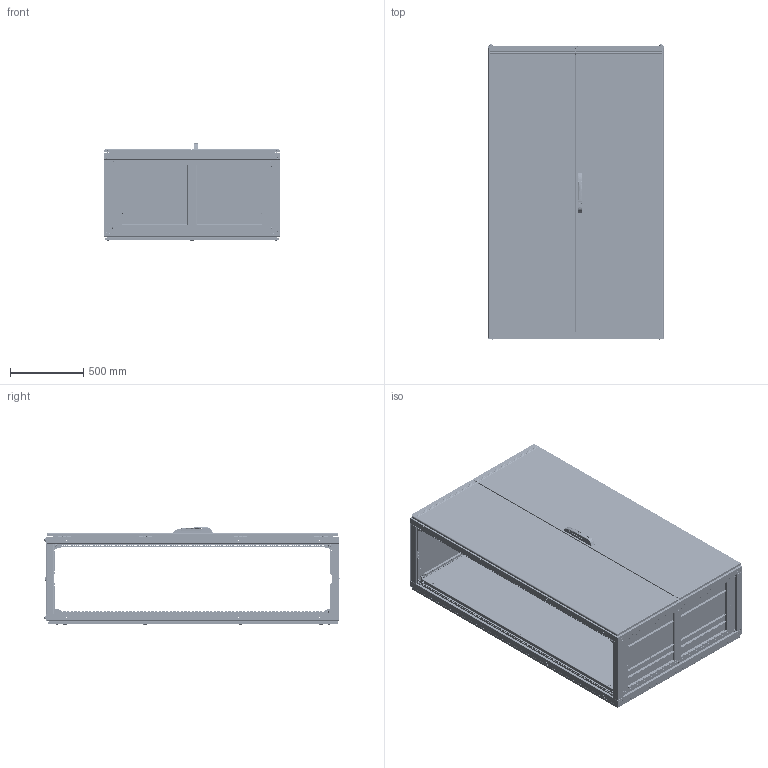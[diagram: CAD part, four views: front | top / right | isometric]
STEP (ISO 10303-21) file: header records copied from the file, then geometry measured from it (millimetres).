
FILE_DESCRIPTION (( 'STEP AP214' ), '1' );
FILE_NAME ('N201206D- 2000 H X 1200 W X 600 D - NEO MODULAR.STEP', '2026-10-01T08:35:08', ( '' ), ( '' ), 'SwSTEP 2.0', 'SolidWorks 2025', '' );
FILE_SCHEMA (( 'AUTOMOTIVE_DESIGN' ));
Length unit declared in the file: millimetre
Products named in the file (107): Base sheet slide part_PP 12.0033 - 1200; adaptor for zamak panel; M8 KAFES SOMUN_m8; F║ºE G=VDE_; lande plastic panel_1_1; Rod Models_1800 çift kapı; YP1189-1-M6_kapal-_1me; Front Slat_1200 sol; MP 11.0195 Mounting Plate M8 Wedge; HO 2000 019CK_1__1_1; 4,6 Diameter plug; hex flange nut gradea_iso6_Hexagon Flange Nut DIN 6923 - M6 - N; Carriage  Nut  VER3 NEO26-12_25x25; Rear Panel Sheet - Neo_PP 16.0051 1200x2000; CR-PHMS 0.19-32x0.625x0.625-N_CR-PHMS 0.19-32x0.625x0.625-N; epdm gasketVER3 NEO26-12; ARKA KAPAK BRAKETVER3 NEO26-12; 2 Door Middle Connection Part - Plastic; YZE069T__1_1; YM 1473; F║ºE KAPAK_; square washer NEO26-12; Teos-Neo MP Durdurucu; BOYUNA DELIKLI PROFILVER3 NEO26-12me_2000; Hexagon Nut ISO - 4034 - M6 - N_Hexagon Nut ISO - 4034 - M6 - N; M5x10mm YHB Bolt_PreviewCfg_1__1_1; NEO Mounting plate sled_PP 16.1238-600; MSBR-7_1__1_1; Front Slat_1200 sağ; Lock mounting part; NEO Modular Rear Panel_1200x2000; countersunk flat head cross recess screw_iso7_ISO 7046-1 - M5 x 10 - Z --- 10C; F║ºE KAPAMA_; Top WidthVER3 NEO26-19_PP 16.0010 1200 GEN.ÜST; TEOS-NEO MP Right Bracket with pin_Sıfır Pozisyonu; 2751_1_1_schrack; square washer nut VER3 NEO26-12; YZE068T__1_1; Mirror MP 11.0188 Support Part ans Locking; Top Cover Sheet_PP 16.0073 1200X600 UST KAPAK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
Assembly tree (314 placements, depth 5):
  N201206D- 2000 H X 1200 W X 600 D - NEO MODULAR
    NEO Modular Frame Assembly_1200x2000x600
      Frame 2015VER3 NEO26-12_1200x2000  x2
        Vertical Profile NEO26-12_PP 16.0014 H 2000
        Top WidthVER3 NEO26-19_PP 16.0010 1200 GEN.ÜST
        Top WidthVER3 NEO26-19_PP 16.0009 1200 GEN.ALT
        Carriage  Nut  VER3 NEO26-12_25x25
        hex nut heavy_am_B18.2.4.6M - Heavy hex nut,  M12 x 1.75 --W-N
        MP 0701.0050 M8 Rivetnut
      NEO Modular Depth_600  x4
        Depth Part VER3 NEO26-12_PP 16.0017   600
        Depth Inner Corner VER3 NEO26-12_PP 16.0023 600 D İÇ
        epdm gasketVER3 NEO26-12
        square washer nut VER3 NEO26-12
        square washer NEO26-12
        socket head cap screw_am_B18.3.1M - 8 x 1.25 x 20 Hex SHCS -- 20NHX
        curved spring lock washer_din_Spring washer DIN 128 - A8
        4X8 Rivet
        4X8 Rivet_4X8
      TEOS-NEO Base sheet metal parts_1200x600  x2
        03-Base Sheet U1 04-2012VER3 NEO26-12_PP 12.0043 - 1200-75
        Base sheet slide part_PP 12.0033 - 1200
        03-Base Sheet U1 04-2012VER3 NEO26-12_PP 12.0038 - 1200-200
      NEO Base Width Part_PP 16.0102 1200 GENİŞLİK  x2
      pan head cross recess screw_iso121_ISO 7045 - M3 x 20 - Z --- 20N  x20
      NEO Base depth Part_PP 16.0096 600  x2
      03taban derinlik orta  percinli 04-2012_PP 12.0055 -600
      NEO Mounting plate sled_PP 16.1238-600  x2
      4,6 Diameter plug  x2
    NEO Modular Rear Panel_1200x2000
      Rear Panel Sheet - Neo_PP 16.0051 1200x2000
      arka kapak orta çektirme NEO A2-REVİZE 1  x2
      pan head cross recess screw_iso121_ISO 7045 - M3 x 20 - Z --- 20N  x20
      MP 14.0007 M6 Plastic Countersink  x10
      countersunk flat head cross recess screw_iso_ISO 7046-1 - M6 x 25 - Z --- 25C  x10
      M6 KAFES SOMUN  x2
        M6 Somun Kafesi
        M6 Kare Somun
      ARKA KAPAK BRAKETVER3 NEO26-12  x8
    NEO Modular Top Cover_1200x600
      Top Cover Sheet_PP 16.0073 1200X600 UST KAPAK
      countersunk flat head cross recess screw_iso_ISO 7046-1 - M6 x 25 - Z --- 25C  x2
      MP 14.0007 M6 Plastic Countersink  x2
      plain washer normal grade a_iso_Washer ISO 7089 - 12  x4
      socket button head screw_iso_ISO 7380 - M12 x 30 - 30C  x4
      Top Cover  3mm Stopper  x4
    NEO Right Front Door_1200x2000
      Right Door Sheet 2 mm_PP 16.0092 1200X2000 SAĞ
      Front Slat_1200 sağ
      Profile Frame with hole Neo_1200x2000
        ENINE DELIKLI PROFILVER3 NEO26-12me_1200  x2
        BOYUNA DELIKLI PROFILVER3 NEO26-12me_2000  x2
        22032010-PLASTIK KOSE50x40VER3 NEO26-12me  x4
      Lock Hinge_1800-Cift
        2751_1_1_schrack
          MSBR-7_1__1_1
          YZE124TKK_1__1_1
          F║ºE G=VDE_
          F║ºE KAPAMA_
          F║ºE KAPAK_
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Bounding box: 1200.1 x 2014.6 x 664.99 mm (x, y, z)
Volume: 22908987.8 mm3; surface area: 26999464.1 mm2
Topology: 413 solids, 413 shells, 33723 faces, 90547 edges, 57344 vertices
Faces by surface type: plane 17469, cylinder 12027, cone 1849, torus 1081, bspline 954, sphere 343
Entity records: 400477 total; most frequent: CARTESIAN_POINT 114472, ORIENTED_EDGE 60408, DIRECTION 55678, EDGE_CURVE 30204, VERTEX_POINT 19304, AXIS2_PLACEMENT_3D 18919, VECTOR 17840, LINE 17840
